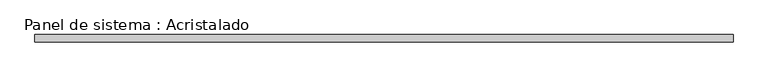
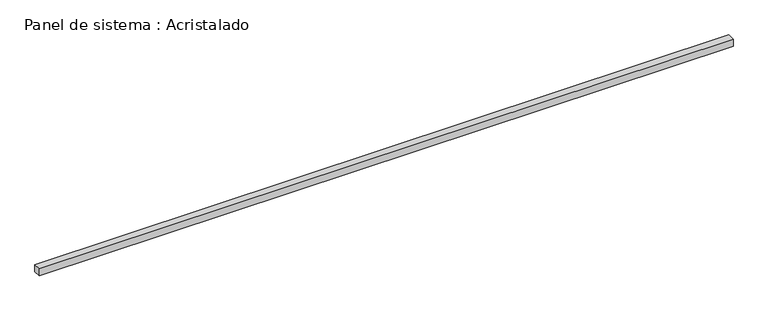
"""IFC4 building model written with IfcOpenShell, lengths in millimetres: plate geometry, Panel de sistema : Acristalado."""

from ifc_helpers import new_model, si_unit, origin, origin_with_axes, place, context, project, spatial, polyline, outline, extrude, source, transform, mapped, element, save


def panel_de_sistema_acristalado_fae8e1be(model_context):
    return source(origin(), model_context, "Body", "SweptSolid", [
        extrude(outline(polyline([(933.0426254, -10.0), (-933.0426254, -10.0), (-933.0426254, 10.0), (933.0426254, 10.0), (933.0426254, -10.0)])), origin_with_axes(), (0.0, 0.0, 1.0), 20.0),
    ])


if __name__ == "__main__":
    model = new_model("IFC4")
    model_context = context("Model", 3, world=origin())
    ifc_project = project(units=[si_unit("LENGTHUNIT", "METRE", prefix="MILLI")], contexts=[model_context])
    site = spatial("IfcSite", under=ifc_project)
    building = spatial("IfcBuilding", under=site)
    placement = place(None, origin())
    panel_de_sistema_acristalado_shape = panel_de_sistema_acristalado_fae8e1be(model_context)
    element("IfcPlate", 1, ObjectType="Panel de sistema : Acristalado", at=placement, inside=building, context=model_context, shape_type="MappedRepresentation", body=[
        mapped(panel_de_sistema_acristalado_shape, transform((0.0, 0.0, 0.0), x_axis=(1.0, 0.0, 0.0), y_axis=(0.0, 1.0, 0.0), z_axis=(0.0, 0.0, 1.0))),
    ])
    save(model, "model.ifc")
